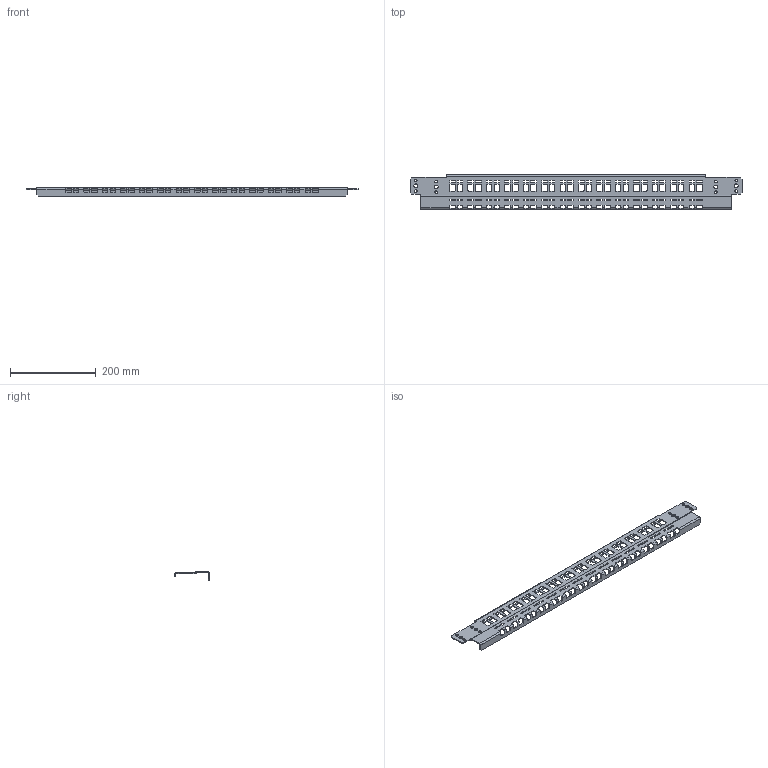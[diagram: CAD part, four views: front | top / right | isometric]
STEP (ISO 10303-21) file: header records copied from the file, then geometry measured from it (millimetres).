
FILE_DESCRIPTION (( 'STEP AP203' ), '1' );
FILE_NAME ('MG 80 EMC Ðåéêà êàáåëüíàÿ ñ êîíòàêòîì ÝÌÑ.STEP', '2012-11-26T12:15:49', ( 'system' ), ( '' ), 'SwSTEP 2.0', 'SolidWorks 2012', '' );
FILE_SCHEMA (( 'CONFIG_CONTROL_DESIGN' ));
Length unit declared in the file: millimetre
Products named in the file (1): MG 80 EMC Ðåéêà êàáåëüíàÿ ñ êîíòàêòîì ÝÌÑ
Bounding box: 775 x 80 x 20 mm (x, y, z)
Volume: 121551 mm3; surface area: 135841.4 mm2
Topology: 1 solids, 1 shells, 1130 faces, 3320 edges, 2136 vertices
Faces by surface type: plane 594, cylinder 536
Entity records: 38093 total; most frequent: DIRECTION 6654, ORIENTED_EDGE 6640, CARTESIAN_POINT 6587, EDGE_CURVE 3320, LINE 2248, VECTOR 2248, AXIS2_PLACEMENT_3D 2203, VERTEX_POINT 2136
